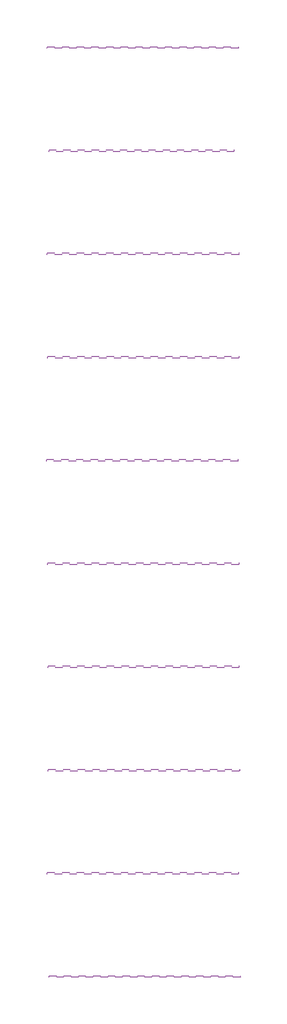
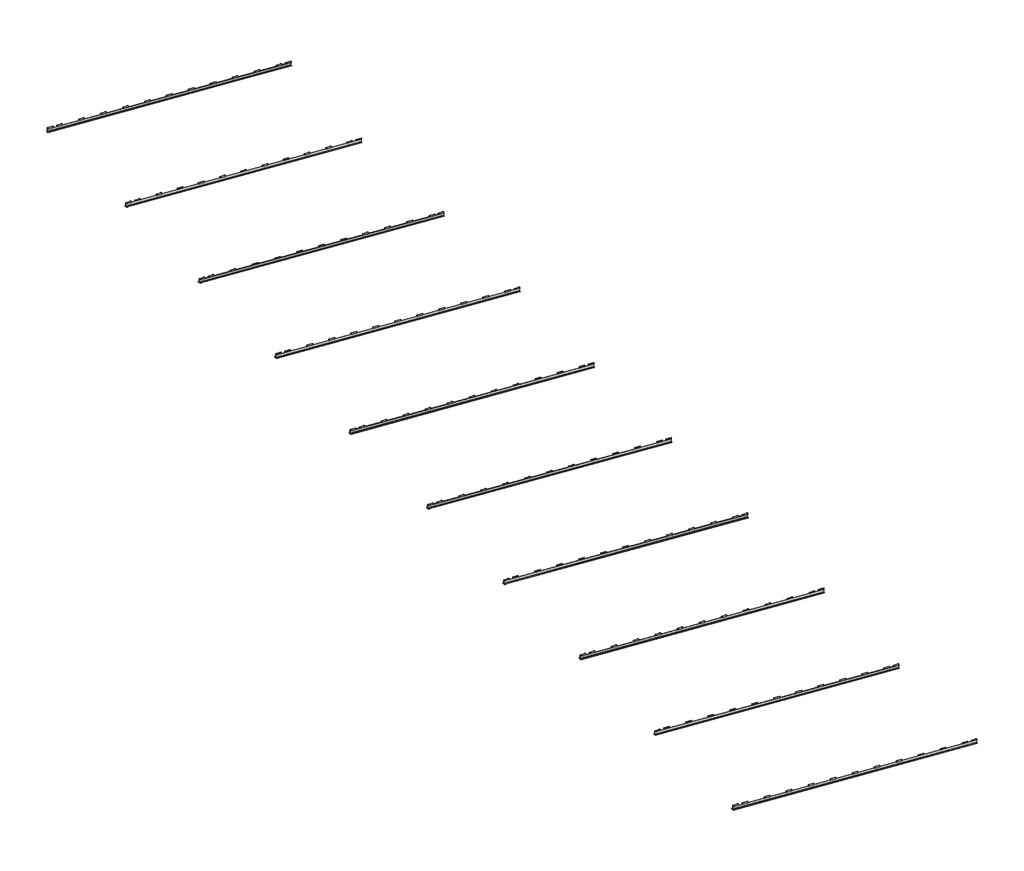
# One storey: 10 beams.
"""IFC4 building model written with IfcOpenShell, lengths in millimetres."""

from ifc_helpers import new_model, si_unit, origin, place, context, project, spatial, transform, mapped, element, save
from components import beam_1_2i260_985ffd1b, beam_1_2i260_78d89379, beam_1_2i260_edd09e0a, beam_1_2i260_bf52fc8e

model = new_model("IFC4")

# Units and contexts
model_context = context("Model", 3, world=origin())
ifc_project = project(units=[si_unit("LENGTHUNIT", "METRE", prefix="MILLI")], contexts=[model_context])

# Site, building, storey
site = spatial("IfcSite", under=ifc_project)
building = spatial("IfcBuilding", under=site)
storey = spatial("IfcBuildingStorey", under=building, Name="+4,46 Niska nawa", Elevation=4460.0)

# Beams
placement = place(None, origin())
beam_1_2i260_shape = beam_1_2i260_985ffd1b(model_context)
element("IfcBeam", 1, ObjectType="Wzmocnienie do belek - dokładny podział : 1/2I260", at=placement, inside=storey, context=model_context, shape_type="MappedRepresentation", body=[
    mapped(beam_1_2i260_shape, transform((-7617.1342032, -36912.4816585, 7146.7144384), x_axis=(0.9981748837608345, 0.0, -0.06038958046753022), y_axis=(0.0, 1.0, 0.0), z_axis=(0.06038958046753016, 0.0, 0.9981748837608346))),
])
element("IfcBeam", 2, ObjectType="Wzmocnienie do belek - dokładny podział : 1/2I260", at=placement, inside=storey, context=model_context, shape_type="MappedRepresentation", body=[
    mapped(beam_1_2i260_shape, transform((-7715.4234646, -30911.848631, 7152.6609387), x_axis=(0.9981748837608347, 0.0, -0.060389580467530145), y_axis=(0.0, 1.0000000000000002, 0.0), z_axis=(0.06038958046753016, 0.0, 0.9981748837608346))),
])
element("IfcBeam", 3, ObjectType="Wzmocnienie do belek - dokładny podział : 1/2I260", at=placement, inside=storey, context=model_context, shape_type="MappedRepresentation", body=[
    mapped(beam_1_2i260_shape, transform((-7661.6311433, -24912.4757804, 7149.4065032), x_axis=(0.9981748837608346, 0.0, -0.0603895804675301), y_axis=(0.0, 1.0, 0.0), z_axis=(0.06038958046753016, 0.0, 0.9981748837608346))),
])
element("IfcBeam", 4, ObjectType="Wzmocnienie do belek - dokładny podział : 1/2I260", at=placement, inside=storey, context=model_context, shape_type="MappedRepresentation", body=[
    mapped(beam_1_2i260_shape, transform((-7683.4873452, -18912.48185, 7150.7288035), x_axis=(0.9981748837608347, 0.0, -0.060389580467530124), y_axis=(0.0, 1.0000000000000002, 0.0), z_axis=(0.06038958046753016, 0.0, 0.9981748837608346))),
])
element("IfcBeam", 5, ObjectType="Wzmocnienie do belek - dokładny podział : 1/2I260", at=placement, inside=storey, context=model_context, shape_type="MappedRepresentation", body=[
    mapped(beam_1_2i260_shape, transform((-7695.8535494, -12912.4816923, 7151.4769588), x_axis=(0.9981748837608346, 0.0, -0.06038958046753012), y_axis=(0.0, 1.0, 0.0), z_axis=(0.06038958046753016, 0.0, 0.9981748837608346))),
])
element("IfcBeam", 6, ObjectType="Wzmocnienie do belek - dokładny podział : 1/2I260", at=placement, inside=storey, context=model_context, shape_type="MappedRepresentation", body=[
    mapped(beam_1_2i260_shape, transform((-7768.1829948, -6912.8707057, 7155.8528903), x_axis=(0.9981748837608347, 0.0, -0.06038958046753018), y_axis=(0.0, 1.0000000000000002, 0.0), z_axis=(0.06038958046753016, 0.0, 0.9981748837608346))),
])
element("IfcBeam", 7, ObjectType="Wzmocnienie do belek - dokładny podział : 1/2I260", at=placement, inside=storey, context=model_context, shape_type="MappedRepresentation", body=[
    mapped(beam_1_2i260_shape, transform((-7695.1908182, -912.8170607, 7151.4368636), x_axis=(0.9981748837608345, 0.0, -0.0603895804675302), y_axis=(0.0, 1.0, 0.0), z_axis=(0.06038958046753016, 0.0, 0.9981748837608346))),
])
beam_1_2i260_2_shape = beam_1_2i260_78d89379(model_context)
element("IfcBeam", 8, ObjectType="Wzmocnienie do belek - dokładny podział : 1/2I260", at=placement, inside=storey, context=model_context, shape_type="MappedRepresentation", body=[
    mapped(beam_1_2i260_2_shape, transform((-7727.8943518, 5087.5183415, 7153.4154274), x_axis=(0.9981748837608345, 0.0, -0.06038958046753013), y_axis=(0.0, 1.0, 0.0), z_axis=(0.06038958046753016, 0.0, 0.9981748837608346))),
])
beam_1_2i260_3_shape = beam_1_2i260_edd09e0a(model_context)
element("IfcBeam", 9, ObjectType="Wzmocnienie do belek - dokładny podział : 1/2I260", at=placement, inside=storey, context=model_context, shape_type="MappedRepresentation", body=[
    mapped(beam_1_2i260_3_shape, transform((-7615.4000061, 11087.5993717, 7146.6095194), x_axis=(0.9981748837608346, 0.0, -0.06038958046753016), y_axis=(0.0, 1.0, 0.0), z_axis=(0.06038958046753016, 0.0, 0.9981748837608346))),
])
beam_1_2i260_4_shape = beam_1_2i260_bf52fc8e(model_context)
element("IfcBeam", 10, ObjectType="Wzmocnienie do belek - dokładny podział : 1/2I260", at=placement, inside=storey, context=model_context, shape_type="MappedRepresentation", body=[
    mapped(beam_1_2i260_4_shape, transform((-7721.7883484, 17087.5425862, 7153.0460142), x_axis=(0.9981748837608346, 0.0, -0.06038958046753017), y_axis=(0.0, 1.0, 0.0), z_axis=(0.06038958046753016, 0.0, 0.9981748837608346))),
])

save(model, "model.ifc")
